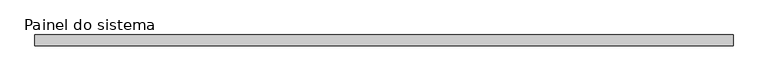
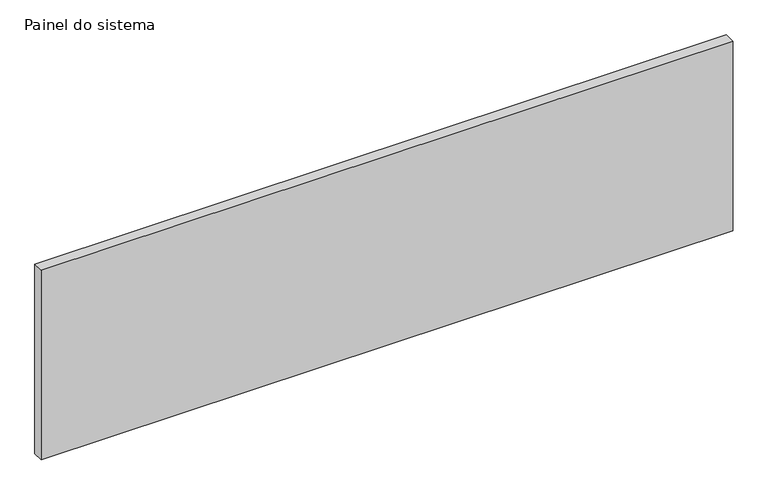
"""IFC4 building model written with IfcOpenShell, lengths in millimetres: plate geometry, Painel do sistema : Envidraçado."""

from ifc_helpers import new_model, si_unit, origin, origin_with_axes, place, context, project, spatial, polyline, outline, extrude, source, transform, mapped, element, save


def painel_do_sistema_7730abee(model_context):
    return source(origin(), model_context, "Body", "SweptSolid", [
        extrude(outline(polyline([(647.0833333, -10.0), (-647.0833333, -10.0), (-647.0833333, 10.0), (647.0833333, 10.0), (647.0833333, -10.0)])), origin_with_axes(), (0.0, 0.0, 1.0), 375.0),
    ])


if __name__ == "__main__":
    model = new_model("IFC4")
    model_context = context("Model", 3, world=origin())
    ifc_project = project(units=[si_unit("LENGTHUNIT", "METRE", prefix="MILLI")], contexts=[model_context])
    site = spatial("IfcSite", under=ifc_project)
    building = spatial("IfcBuilding", under=site)
    placement = place(None, origin())
    painel_do_sistema_shape = painel_do_sistema_7730abee(model_context)
    element("IfcPlate", 1, ObjectType="Painel do sistema : Envidraçado", at=placement, inside=building, context=model_context, shape_type="MappedRepresentation", body=[
        mapped(painel_do_sistema_shape, transform((0.0, 0.0, 0.0), x_axis=(1.0, 0.0, 0.0), y_axis=(0.0, 1.0, 0.0), z_axis=(0.0, 0.0, 1.0))),
    ])
    save(model, "model.ifc")
